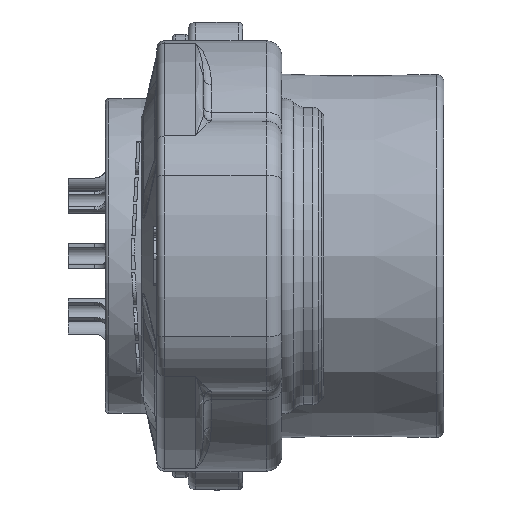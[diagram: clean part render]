
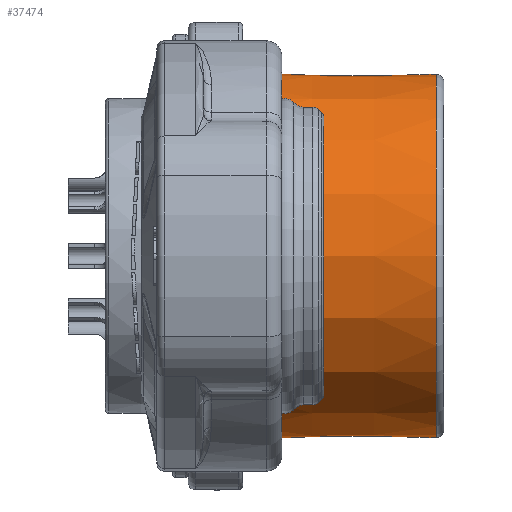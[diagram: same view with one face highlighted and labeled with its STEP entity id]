
A CAD part, front view. The second image highlights one B-rep face of the part: STEP entity #37474.
In plain terms, the highlighted conical face has half-angle 0.5 degrees and reference radius 11.65 mm.
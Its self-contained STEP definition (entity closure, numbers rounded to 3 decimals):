
#271 = VERTEX_POINT ( 'NONE', #53267 ) ;
#745 = FACE_OUTER_BOUND ( 'NONE', #5461, .T. ) ;
#1906 = CARTESIAN_POINT ( 'NONE',  ( -12.404, 8.786, -7.814 ) ) ;
#3050 = DIRECTION ( 'NONE',  ( 0., 0., 1. ) ) ;
#4533 = AXIS2_PLACEMENT_3D ( 'NONE', #21587, #54182, #3050 ) ;
#5461 = EDGE_LOOP ( 'NONE', ( #45907, #40576, #12856, #43068 ) ) ;
#6056 = CARTESIAN_POINT ( 'NONE',  ( -8.135, 8.767, 7.78 ) ) ;
#10580 = CIRCLE ( 'NONE', #54375, 11.654 ) ;
#10985 = EDGE_CURVE ( 'NONE', #13276, #271, #38165, .T. ) ;
#11223 = CARTESIAN_POINT ( 'NONE',  ( -0.496, 8.733, 7.718 ) ) ;
#12856 = ORIENTED_EDGE ( 'NONE', *, *, #17089, .T. ) ;
#13276 = VERTEX_POINT ( 'NONE', #58141 ) ;
#14116 = DIRECTION ( 'NONE',  ( -1., 0., 0. ) ) ;
#15584 = CARTESIAN_POINT ( 'NONE',  ( -6.9, 8.761, -7.77 ) ) ;
#15622 = DIRECTION ( 'NONE',  ( -1., 0., 0. ) ) ;
#16222 = DIRECTION ( 'NONE',  ( 0., 0., -1. ) ) ;
#16934 = VERTEX_POINT ( 'NONE', #42420 ) ;
#17089 = EDGE_CURVE ( 'NONE', #17558, #16934, #33167, .T. ) ;
#17558 = VERTEX_POINT ( 'NONE', #46229 ) ;
#21587 = CARTESIAN_POINT ( 'NONE',  ( -12.404, 0., 0. ) ) ;
#25223 = CARTESIAN_POINT ( 'NONE',  ( -12.404, 8.786, 7.814 ) ) ;
#25518 = CARTESIAN_POINT ( 'NONE',  ( -2.33, 8.741, 7.733 ) ) ;
#28970 = CARTESIAN_POINT ( 'NONE',  ( -4.765, 8.752, -7.752 ) ) ;
#29798 = CARTESIAN_POINT ( 'NONE',  ( -10.269, 8.776, 7.797 ) ) ;
#33167 = B_SPLINE_CURVE_WITH_KNOTS ( 'NONE', 3,
 ( #1906, #57288, #56686, #15584, #28970, #52149, #47556 ),
 .UNSPECIFIED., .F., .F.,
 ( 4, 3, 4 ),
 ( 0., 0.006, 0.012 ),
 .UNSPECIFIED. ) ;
#37474 = ADVANCED_FACE ( 'NONE', ( #745 ), #56273, .T. ) ;
#37520 = EDGE_CURVE ( 'NONE', #16934, #13276, #10580, .T. ) ;
#38165 = B_SPLINE_CURVE_WITH_KNOTS ( 'NONE', 3,
 ( #11223, #25518, #44120, #53252, #6056, #29798, #25223 ),
 .UNSPECIFIED., .F., .F.,
 ( 4, 3, 4 ),
 ( 0., 0.006, 0.012 ),
 .UNSPECIFIED. ) ;
#38495 = CARTESIAN_POINT ( 'NONE',  ( 0., 0., 0. ) ) ;
#40576 = ORIENTED_EDGE ( 'NONE', *, *, #49483, .T. ) ;
#41498 = CIRCLE ( 'NONE', #4533, 11.758 ) ;
#42420 = CARTESIAN_POINT ( 'NONE',  ( -0.496, 8.733, -7.718 ) ) ;
#43068 = ORIENTED_EDGE ( 'NONE', *, *, #37520, .T. ) ;
#44120 = CARTESIAN_POINT ( 'NONE',  ( -4.165, 8.749, 7.747 ) ) ;
#45907 = ORIENTED_EDGE ( 'NONE', *, *, #10985, .T. ) ;
#46229 = CARTESIAN_POINT ( 'NONE',  ( -12.404, 8.786, -7.814 ) ) ;
#47556 = CARTESIAN_POINT ( 'NONE',  ( -0.496, 8.733, -7.718 ) ) ;
#49483 = EDGE_CURVE ( 'NONE', #271, #17558, #41498, .T. ) ;
#49512 = AXIS2_PLACEMENT_3D ( 'NONE', #38495, #14116, #56425 ) ;
#52149 = CARTESIAN_POINT ( 'NONE',  ( -2.631, 8.742, -7.735 ) ) ;
#53252 = CARTESIAN_POINT ( 'NONE',  ( -6., 8.757, 7.762 ) ) ;
#53267 = CARTESIAN_POINT ( 'NONE',  ( -12.404, 8.786, 7.814 ) ) ;
#54182 = DIRECTION ( 'NONE',  ( 1., 0., 0. ) ) ;
#54375 = AXIS2_PLACEMENT_3D ( 'NONE', #57935, #15622, #16222 ) ;
#56273 = CONICAL_SURFACE ( 'NONE', #49512, 11.65, 0.009 ) ;
#56425 = DIRECTION ( 'NONE',  ( 0., 0., 1. ) ) ;
#56686 = CARTESIAN_POINT ( 'NONE',  ( -8.735, 8.77, -7.785 ) ) ;
#57288 = CARTESIAN_POINT ( 'NONE',  ( -10.57, 8.778, -7.8 ) ) ;
#57935 = CARTESIAN_POINT ( 'NONE',  ( -0.496, 0., 0. ) ) ;
#58141 = CARTESIAN_POINT ( 'NONE',  ( -0.496, 8.733, 7.718 ) ) ;
